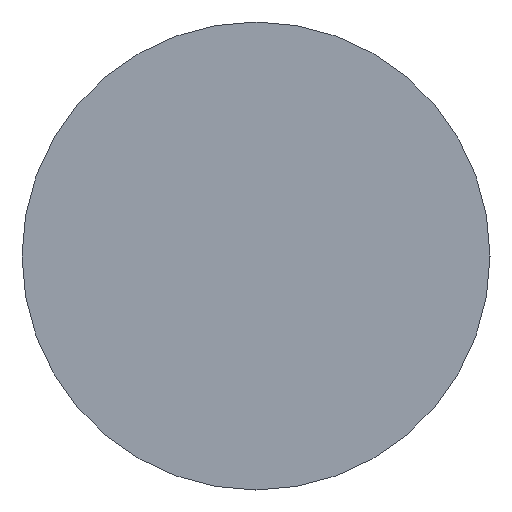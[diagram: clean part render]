
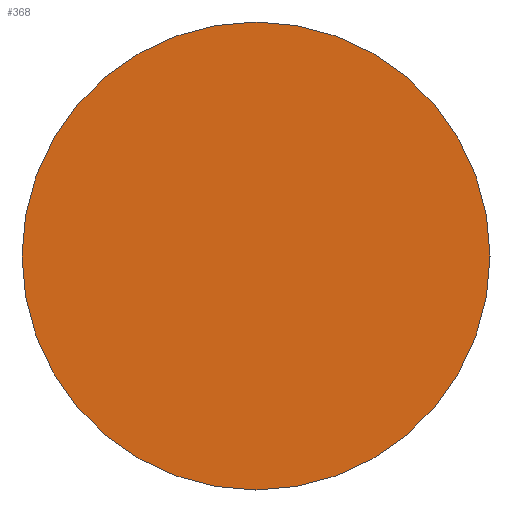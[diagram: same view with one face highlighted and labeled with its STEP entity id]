
A CAD part, left-side view. The second image highlights one B-rep face of the part: STEP entity #368.
In plain terms, the highlighted planar face has unit normal (-1, 0, 0).
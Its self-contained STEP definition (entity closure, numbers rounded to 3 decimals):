
#13 = EDGE_CURVE ( 'NONE', #374, #378, #147, .T. ) ;
#16 = EDGE_CURVE ( 'NONE', #378, #374, #165, .T. ) ;
#25 = ORIENTED_EDGE ( 'NONE', *, *, #13, .T. ) ;
#60 = CARTESIAN_POINT ( 'NONE',  ( 0., 0., 5. ) ) ;
#103 = CARTESIAN_POINT ( 'NONE',  ( 0., 0., -5. ) ) ;
#147 = CIRCLE ( 'NONE', #148, 5. ) ;
#148 = AXIS2_PLACEMENT_3D ( 'NONE', #149, #150, #151 ) ;
#149 = CARTESIAN_POINT ( 'NONE',  ( 0., 0., 0. ) ) ;
#150 = DIRECTION ( 'NONE',  ( -1., 0., 0. ) ) ;
#151 = DIRECTION ( 'NONE',  ( 0., 0., 1. ) ) ;
#165 = CIRCLE ( 'NONE', #166, 5. ) ;
#166 = AXIS2_PLACEMENT_3D ( 'NONE', #167, #168, #169 ) ;
#167 = CARTESIAN_POINT ( 'NONE',  ( 0., 0., 0. ) ) ;
#168 = DIRECTION ( 'NONE',  ( -1., 0., 0. ) ) ;
#169 = DIRECTION ( 'NONE',  ( 0., 0., 1. ) ) ;
#227 = FACE_OUTER_BOUND ( 'NONE', #350, .T. ) ;
#228 = PLANE ( 'NONE',  #229 ) ;
#229 = AXIS2_PLACEMENT_3D ( 'NONE', #230, #231, #232 ) ;
#230 = CARTESIAN_POINT ( 'NONE',  ( 0., 5., 0. ) ) ;
#231 = DIRECTION ( 'NONE',  ( 1., 0., 0. ) ) ;
#232 = DIRECTION ( 'NONE',  ( 0., 0., -1. ) ) ;
#350 = EDGE_LOOP ( 'NONE', ( #25, #362 ) ) ;
#362 = ORIENTED_EDGE ( 'NONE', *, *, #16, .T. ) ;
#368 = ADVANCED_FACE ( 'NONE', ( #227 ), #228, .F. ) ;
#374 = VERTEX_POINT ( 'NONE', #60 ) ;
#378 = VERTEX_POINT ( 'NONE', #103 ) ;
